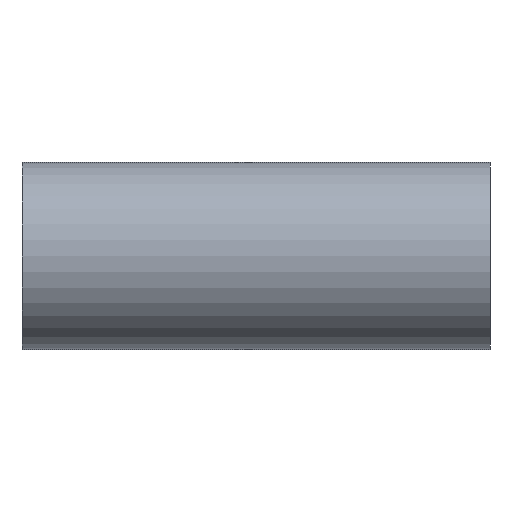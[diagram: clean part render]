
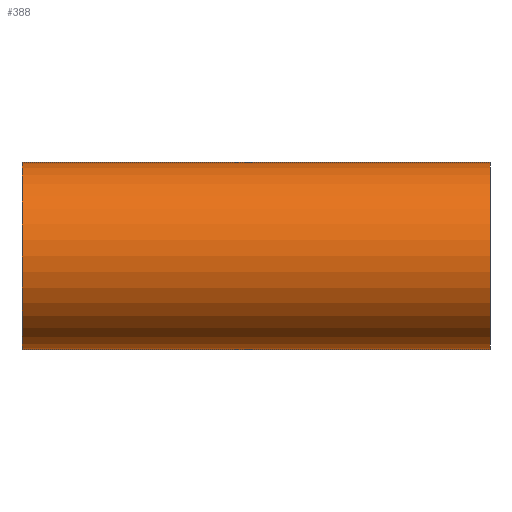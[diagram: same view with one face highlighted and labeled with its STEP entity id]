
A CAD part, front view. The second image highlights one B-rep face of the part: STEP entity #388.
In plain terms, the highlighted cylindrical face has radius 31.75 mm (diameter 63.5 mm), a partial arc.
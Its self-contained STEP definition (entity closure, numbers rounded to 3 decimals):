
#1 = DIRECTION ( 'NONE',  ( 0., 0., -1. ) ) ;
#14 = VERTEX_POINT ( 'NONE', #253 ) ;
#17 = DIRECTION ( 'NONE',  ( 1., 0., 0. ) ) ;
#19 = CARTESIAN_POINT ( 'NONE',  ( 79.4, 0., 0. ) ) ;
#41 = CARTESIAN_POINT ( 'NONE',  ( -79.4, 0., 0. ) ) ;
#42 = LINE ( 'NONE', #167, #150 ) ;
#49 = CIRCLE ( 'NONE', #250, 31.75 ) ;
#59 = DIRECTION ( 'NONE',  ( 0., 0., -1. ) ) ;
#63 = ORIENTED_EDGE ( 'NONE', *, *, #133, .T. ) ;
#79 = FACE_OUTER_BOUND ( 'NONE', #399, .T. ) ;
#80 = CARTESIAN_POINT ( 'NONE',  ( -79.4, 0., -31.75 ) ) ;
#93 = EDGE_CURVE ( 'NONE', #14, #380, #49, .T. ) ;
#127 = CARTESIAN_POINT ( 'NONE',  ( -79.4, 0., 0. ) ) ;
#133 = EDGE_CURVE ( 'NONE', #421, #289, #474, .T. ) ;
#139 = ORIENTED_EDGE ( 'NONE', *, *, #193, .T. ) ;
#150 = VECTOR ( 'NONE', #366, 1000. ) ;
#167 = CARTESIAN_POINT ( 'NONE',  ( -79.4, 0., 31.75 ) ) ;
#187 = CARTESIAN_POINT ( 'NONE',  ( 79.4, 0., 31.75 ) ) ;
#193 = EDGE_CURVE ( 'NONE', #380, #421, #517, .T. ) ;
#201 = ORIENTED_EDGE ( 'NONE', *, *, #93, .T. ) ;
#210 = DIRECTION ( 'NONE',  ( 1., 0., 0. ) ) ;
#220 = AXIS2_PLACEMENT_3D ( 'NONE', #19, #359, #59 ) ;
#250 = AXIS2_PLACEMENT_3D ( 'NONE', #41, #298, #430 ) ;
#253 = CARTESIAN_POINT ( 'NONE',  ( -79.4, 0., 31.75 ) ) ;
#277 = ORIENTED_EDGE ( 'NONE', *, *, #341, .F. ) ;
#289 = VERTEX_POINT ( 'NONE', #187 ) ;
#290 = CARTESIAN_POINT ( 'NONE',  ( 79.4, 0., -31.75 ) ) ;
#298 = DIRECTION ( 'NONE',  ( 1., 0., 0. ) ) ;
#329 = AXIS2_PLACEMENT_3D ( 'NONE', #127, #210, #1 ) ;
#341 = EDGE_CURVE ( 'NONE', #14, #289, #42, .T. ) ;
#359 = DIRECTION ( 'NONE',  ( -1., 0., 0. ) ) ;
#366 = DIRECTION ( 'NONE',  ( 1., 0., 0. ) ) ;
#380 = VERTEX_POINT ( 'NONE', #80 ) ;
#388 = ADVANCED_FACE ( 'NONE', ( #79 ), #395, .T. ) ;
#395 = CYLINDRICAL_SURFACE ( 'NONE', #329, 31.75 ) ;
#399 = EDGE_LOOP ( 'NONE', ( #277, #201, #139, #63 ) ) ;
#421 = VERTEX_POINT ( 'NONE', #290 ) ;
#430 = DIRECTION ( 'NONE',  ( 0., 0., -1. ) ) ;
#474 = CIRCLE ( 'NONE', #220, 31.75 ) ;
#489 = VECTOR ( 'NONE', #17, 1000. ) ;
#517 = LINE ( 'NONE', #527, #489 ) ;
#527 = CARTESIAN_POINT ( 'NONE',  ( -79.4, 0., -31.75 ) ) ;
